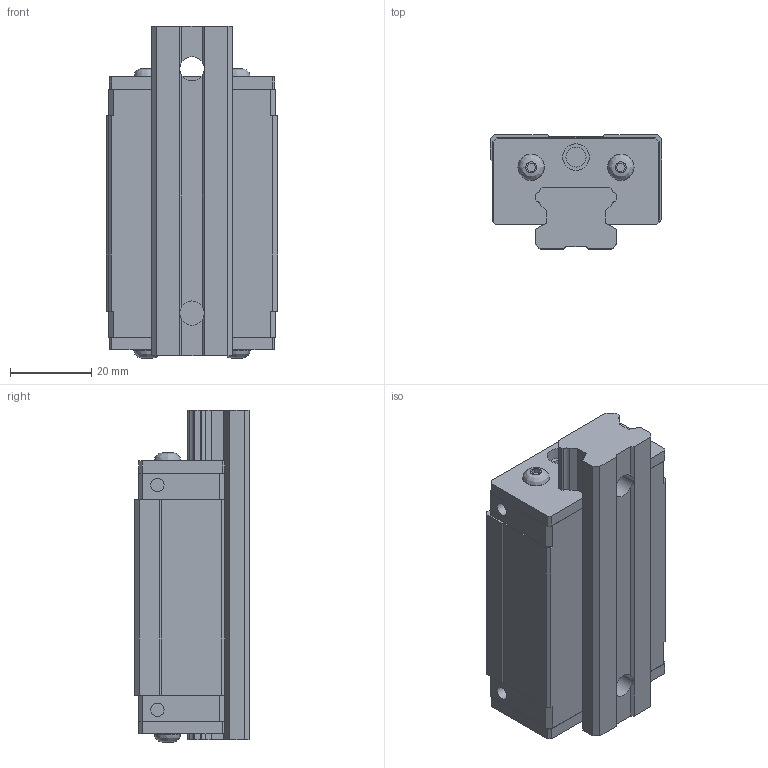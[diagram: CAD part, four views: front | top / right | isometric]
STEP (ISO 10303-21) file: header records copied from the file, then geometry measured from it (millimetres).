
FILE_DESCRIPTION( ( 'STEP AP214' ), '1' );
FILE_NAME( 'C:/Users/mimi4/OneDrive/Desktop/BSQ賅筐葭/MCS/MCS20N.stp', '2019-10-01T07:18:02', ( ' ' ), ( ' ' ), 'XStep 1.0', 'VISICAD', ' ' );
FILE_SCHEMA( ( 'automotive_design' ) );
Length unit declared in the file: metre
Products named in the file (4): 1; 2; 3; 4
Bounding box: 42 x 28 x 81.5 mm (x, y, z)
Volume: 67536 mm3; surface area: 22949.2 mm2
Topology: 4 solids, 4 shells, 226 faces, 592 edges, 392 vertices
Faces by surface type: plane 172, cylinder 42, cone 8, bspline 4
Full cylindrical faces by diameter (mm): 3.3 x4, 4.134 x4, 4.917 x2, 6 x2, 6.5 x10, 9.5 x2
Entity records: 8614 total; most frequent: CARTESIAN_POINT 1270, DIRECTION 1096, ORIENTED_EDGE 1092, EDGE_CURVE 546, LINE 448, VECTOR 448, VERTEX_POINT 386, AXIS2_PLACEMENT_3D 324
